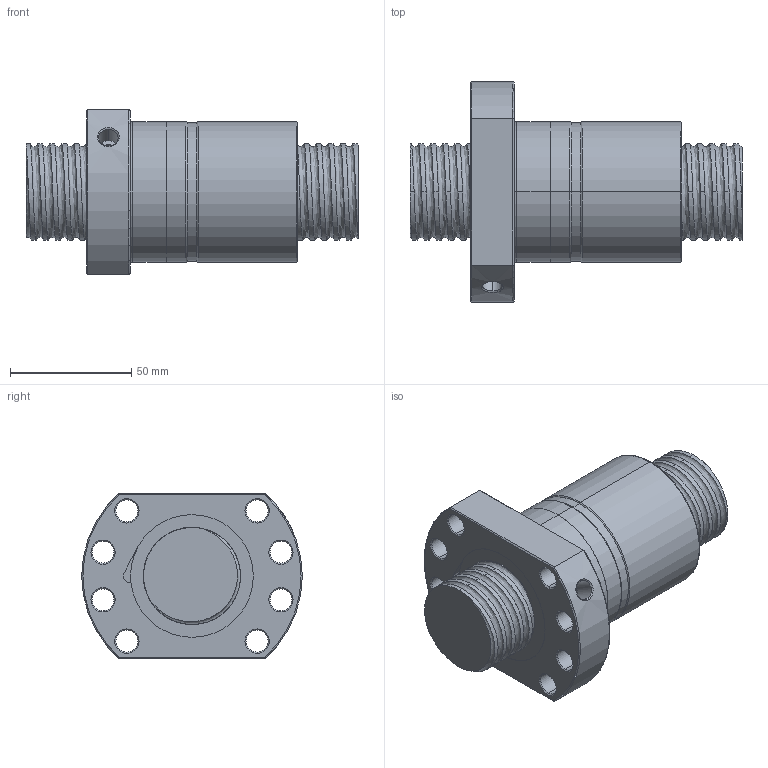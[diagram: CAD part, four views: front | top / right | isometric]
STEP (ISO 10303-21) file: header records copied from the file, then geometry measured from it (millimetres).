
FILE_DESCRIPTION (( 'STEP AP214' ), '1' );
FILE_NAME ('FDDC04005T4-C-C.STEP', '2010-07-06T05:33:10', ( 'XPAUTO' ), ( 'XPAUTO' ), 'SwSTEP 2.0', 'SolidWorks 2007', '' );
FILE_SCHEMA (( 'AUTOMOTIVE_DESIGN' ));
Length unit declared in the file: millimetre
Products named in the file (3): FDDC04005T4-C-C; FDDC04005T4-C-C.sldasm-Part-2_預設; FDDC04005T4-C-C.sldasm-Part-1_預設
Assembly tree (2 placements, depth 2):
  FDDC04005T4-C-C
    FDDC04005T4-C-C.sldasm-Part-2_預設
    FDDC04005T4-C-C.sldasm-Part-1_預設
Bounding box: 137 x 91 x 68 mm (x, y, z)
Volume: 322525.3 mm3; surface area: 64456.8 mm2
Topology: 2 solids, 2 shells, 171 faces, 431 edges, 269 vertices
Faces by surface type: cylinder 102, cone 32, plane 22, torus 10, bspline 5
Entity records: 47805 total; most frequent: CARTESIAN_POINT 43778, ORIENTED_EDGE 862, DIRECTION 765, EDGE_CURVE 431, AXIS2_PLACEMENT_3D 307, VERTEX_POINT 269, EDGE_LOOP 196, FACE_OUTER_BOUND 171
